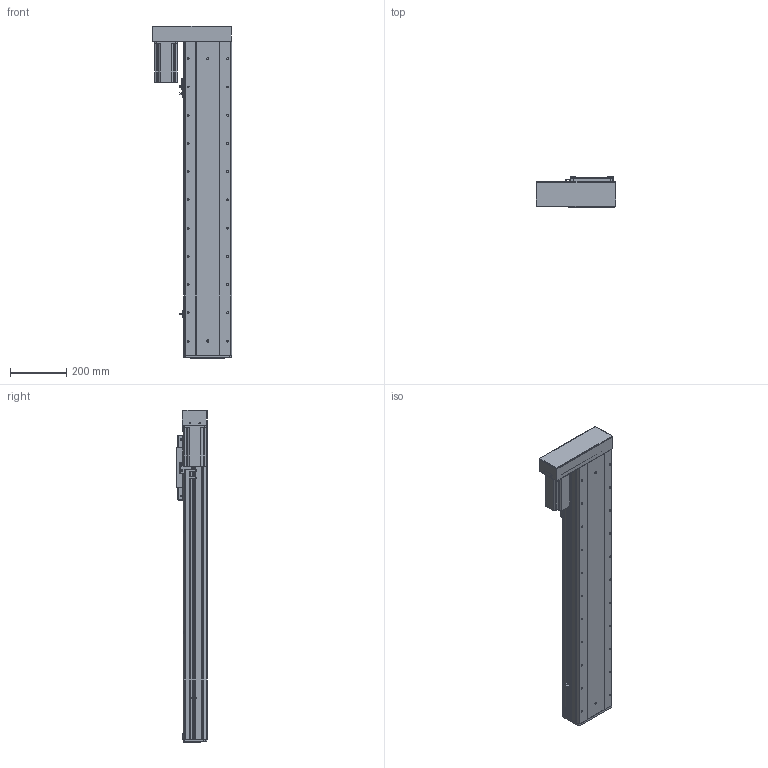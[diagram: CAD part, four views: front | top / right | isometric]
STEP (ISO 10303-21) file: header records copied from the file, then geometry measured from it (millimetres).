
FILE_DESCRIPTION (( 'STEP AP203' ), '1' );
FILE_NAME ('RY170F-L2020-300-LK.SLDASM_800.step', '2021-03-02T09:00:44', ( '盈信电脑' ), ( '东莞市道滘镇水果街19号' ), 'SwSTEP 2.0', 'SolidWorks 2012', '' );
FILE_SCHEMA (( 'CONFIG_CONTROL_DESIGN' ));
Length unit declared in the file: millimetre
Products named in the file (20): RY170F-300眻蟀倰第奻裔啣-LK_800; RY100F-詩湍揤踡謫; 滅袉蝶18-10; RY170F-佪裝臏賑輸20蹟譫; RY170F-300眻蟀倰第菁釱-LK_800; RY170F-丝杆铝滑块连接板; RY170F-300眻蟀祥凄詩湍-LK_800; RY170F-滅鳥奻裔; RY170F-綴裔啣; RY170F-L2020-300-LK.SLDASM_800; RY170F-蛌殏萇儂假蚾啣; RY170F酘衵殏萇儂欶; RY170F-酘衵殏萇儂釱; 怢湛750W萇儂ㄗ80遺ㄘ; RY170F-揤踡謫假蚾粣; 滅袉蝶18-24; 侐源滅袉蝶; RY170F-詩湍揤踡輸; 覜茼ん672; RY170F俋离覜茼え
Assembly tree (24 placements, depth 2):
  RY170F-L2020-300-LK.SLDASM_800
    RY170F-滅鳥奻裔
    RY170F-300眻蟀祥凄詩湍-LK_800
    RY170F-300眻蟀倰第菁釱-LK_800
    RY170F-佪裝臏賑輸20蹟譫
    RY170F-丝杆铝滑块连接板
    RY170F-300眻蟀倰第奻裔啣-LK_800  x2
    滅袉蝶18-10
    RY100F-詩湍揤踡謫
    RY170F-綴裔啣
    覜茼ん672  x3
    RY170F俋离覜茼え
    RY170F-揤踡謫假蚾粣
    RY170F-詩湍揤踡輸  x2
    滅袉蝶18-24
    侐源滅袉蝶  x2
    RY170F-酘衵殏萇儂釱
    RY170F-蛌殏萇儂假蚾啣
    怢湛750W萇儂ㄗ80遺ㄘ
    RY170F酘衵殏萇儂欶
Bounding box: 283 x 107 x 1176 mm (x, y, z)
Volume: 7049883.8 mm3; surface area: 2287476.6 mm2
Topology: 24 solids, 24 shells, 1877 faces, 5198 edges, 3290 vertices
Faces by surface type: cylinder 893, plane 760, cone 216, bspline 8
Entity records: 53819 total; most frequent: CARTESIAN_POINT 10822, DIRECTION 8743, ORIENTED_EDGE 8312, EDGE_CURVE 4156, AXIS2_PLACEMENT_3D 3161, VERTEX_POINT 2710, LINE 2421, VECTOR 2421
